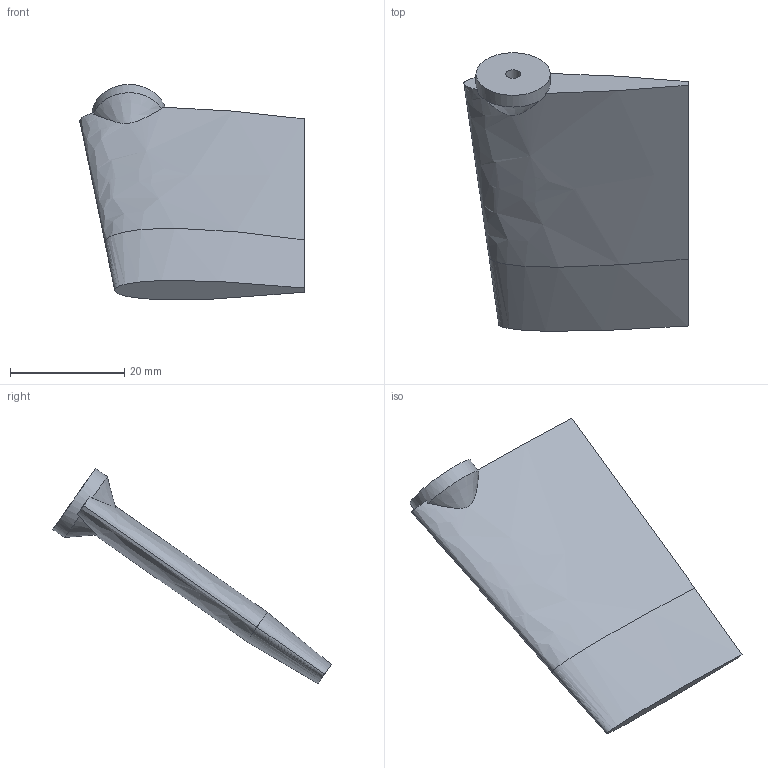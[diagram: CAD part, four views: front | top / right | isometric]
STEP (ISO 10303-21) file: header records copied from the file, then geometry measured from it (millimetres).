
FILE_DESCRIPTION(('SkyG Speed 90B - revision C6B-18 - 2026-10-15','SL-stabilator-left'),'2;1');
FILE_NAME('SL-stabilator-left_C6B-18','2026-10-15T11:37:25',('Author'),( 'Open CASCADE'),'Open CASCADE STEP processor 7.9','Open CASCADE 7.9' ,'Unknown');
FILE_SCHEMA(('AUTOMOTIVE_DESIGN { 1 0 10303 214 1 1 1 1 }'));
Length unit declared in the file: millimetre
Products named in the file (1): SL-stabilator-left C6B-18
Bounding box: 39.2 x 48.66 x 37.59 mm (x, y, z)
Volume: 8379.9 mm3; surface area: 4654.3 mm2
Topology: 1 solids, 1 shells, 14 faces, 32 edges, 21 vertices
Faces by surface type: plane 6, bspline 4, cone 2, cylinder 2
Full cylindrical faces by diameter (mm): 2.6 x1, 13 x1
Entity records: 2760 total; most frequent: CARTESIAN_POINT 2183, DIRECTION 77, ORIENTED_EDGE 64, PCURVE 64, DEFINITIONAL_REPRESENTATION 64, B_SPLINE_CURVE_WITH_KNOTS 46, LINE 37, VECTOR 37
